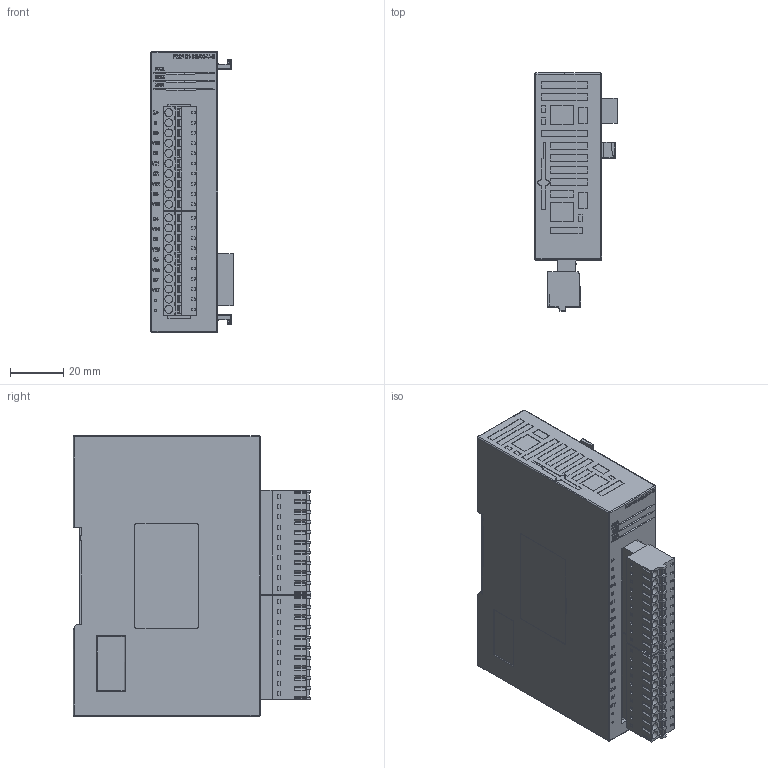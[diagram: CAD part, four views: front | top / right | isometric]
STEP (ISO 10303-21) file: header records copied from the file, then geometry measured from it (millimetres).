
FILE_DESCRIPTION(('STEP AP242'), '1');
FILE_NAME('PMP-01-E8AD-V-S', '', ('UNSPECIFIED'), ('UNSPECIFIED'), 'C3D Converter', 'C3D Toolkit', '');
FILE_SCHEMA(('AP242_MANAGED_MODEL_BASED_3D_ENGINEERING_MIM_LF { 1 0 10303 442 1 1 4 }'));
Length unit declared in the file: millimetre
Products named in the file (1): PMP-01-E8AD-V-S
Bounding box: 30.8 x 88.99 x 105 mm (x, y, z)
Surface area: 32184.8 mm2
Topology: 9 solids, 95 shells, 1944 faces, 5527 edges, 3812 vertices
Faces by surface type: plane 1576, extrusion 134, bspline 122, cylinder 112
Full cylindrical faces by diameter (mm): 3 x20
Entity records: 91813 total; most frequent: CARTESIAN_POINT 26925, ORIENTED_EDGE 10408, DIRECTION 8514, EDGE_CURVE 5506, VECTOR 4310, LINE 4176, VERTEX_POINT 3812, FACE_BOUND 2147
